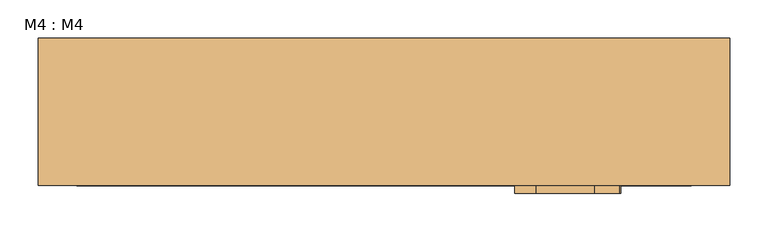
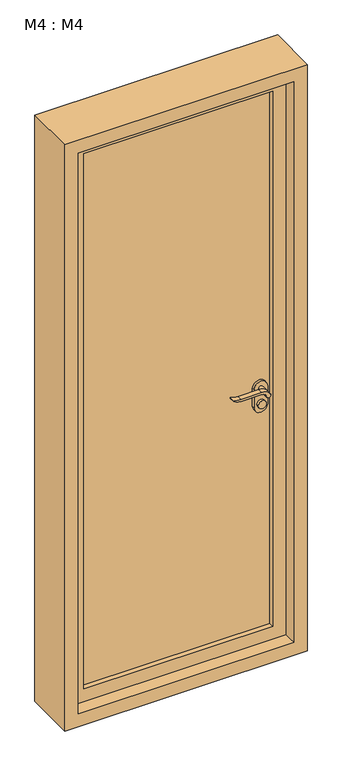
"""IFC4 building model written with IfcOpenShell, lengths in millimetres: door geometry, M4 : M4."""

from ifc_helpers import new_model, si_unit, point, frame, frame_2d, origin, place, context, project, spatial, polyline, circle_curve, trimmed, segment, composite_curve, outline, extrude, source, transform, mapped, element, save


def m4_m4_3ad702a5(model_context):
    return source(origin(), model_context, "Body", "SweptSolid", [
        extrude(outline(composite_curve([segment(trimmed(circle_curve(frame_2d((1000.0, 300.0)), 15.0), [point((1000.0, 285.0))], [point((1000.0, 315.0))], False, "CARTESIAN"), True, "CONTINUOUS"), segment(trimmed(circle_curve(frame_2d((1000.0, 300.0)), 15.0), [point((1000.0, 315.0))], [point((1000.0, 285.0))], False, "CARTESIAN"), True, "CONTINUOUS")], self_intersect=False)), frame((0.0, -45.0, 0.0), z_axis=(0.0, 1.0, 0.0), x_axis=(0.0, 0.0, 1.0)), (0.0, 0.0, 1.0), 10.0),
        extrude(outline(composite_curve([segment(trimmed(circle_curve(frame_2d((1000.0, 300.0)), 15.0), [point((1000.0, 285.0))], [point((1000.0, 315.0))], False, "CARTESIAN"), True, "CONTINUOUS"), segment(trimmed(circle_curve(frame_2d((1000.0, 300.0)), 15.0), [point((1000.0, 315.0))], [point((1000.0, 285.0))], False, "CARTESIAN"), True, "CONTINUOUS")], self_intersect=False)), frame((0.0, 35.0, 0.0), z_axis=(0.0, 1.0, 0.0), x_axis=(0.0, 0.0, 1.0)), (0.0, 0.0, 1.0), 10.0),
        extrude(outline(composite_curve([segment(trimmed(circle_curve(frame_2d((1042.7555521, 276.3324871)), 37.2832219), [point((1064.6523287, 306.5081363))], [point((1080.0, 274.6325667))], False, "CARTESIAN"), True, "CONTINUOUS"), segment(polyline([(1080.0, 274.6325667), (1080.0, 198.3564091)]), True, "CONTINUOUS"), segment(trimmed(circle_curve(frame_2d((1163.2850638, 198.4227909)), 83.2850902), [point((1080.0, 198.3564091))], [point((1085.0, 170.0))], True, "CARTESIAN"), True, "CONTINUOUS"), segment(polyline([(1085.0, 170.0), (1082.2135558, 170.0)]), True, "CONTINUOUS"), segment(trimmed(circle_curve(frame_2d((1132.2709207, 201.9396612)), 59.3791355), [point((1082.2135558, 170.0))], [point((1073.0, 198.3564091))], False, "CARTESIAN"), True, "CONTINUOUS"), segment(polyline([(1073.0, 198.3564091), (1073.0, 274.6138099)]), True, "CONTINUOUS"), segment(trimmed(circle_curve(frame_2d((1054.8738613, 274.6138099)), 18.1261387), [point((1073.0, 274.6138099))], [point((1060.0, 292.0))], True, "CARTESIAN"), True, "CONTINUOUS"), segment(trimmed(circle_curve(frame_2d((1060.0, 300.0)), 8.0), [point((1060.0, 292.0))], [point((1064.6523287, 306.5081363))], False, "CARTESIAN"), True, "CONTINUOUS")], self_intersect=False)), frame((0.0, -85.0, 0.0), z_axis=(0.0, 1.0, 0.0), x_axis=(0.0, 0.0, 1.0)), (0.0, 0.0, 1.0), 20.0),
        extrude(outline(composite_curve([segment(trimmed(circle_curve(frame_2d((1060.0, 300.0)), 8.0), [point((1059.9999903, 292.0))], [point((1064.6523287, 306.5081363))], False, "CARTESIAN"), True, "CONTINUOUS"), segment(trimmed(circle_curve(frame_2d((1042.7555521, 276.3324871)), 37.2832219), [point((1064.6523287, 306.5081363))], [point((1080.0, 274.6325667))], False, "CARTESIAN"), True, "CONTINUOUS"), segment(polyline([(1080.0, 274.6325667), (1080.0, 198.3564091)]), True, "CONTINUOUS"), segment(trimmed(circle_curve(frame_2d((1163.2850638, 198.4227909)), 83.2850902), [point((1080.0, 198.3564091))], [point((1085.0, 170.0))], True, "CARTESIAN"), True, "CONTINUOUS"), segment(polyline([(1085.0, 170.0), (1082.2135558, 170.0)]), True, "CONTINUOUS"), segment(trimmed(circle_curve(frame_2d((1132.2709207, 201.9396612)), 59.3791355), [point((1082.2135558, 170.0))], [point((1073.0, 198.3564091))], False, "CARTESIAN"), True, "CONTINUOUS"), segment(polyline([(1073.0, 198.3564091), (1073.0, 274.6138122)]), True, "CONTINUOUS"), segment(trimmed(circle_curve(frame_2d((1054.8738682, 274.6138122)), 18.1261318), [point((1073.0, 274.6138122))], [point((1059.9999903, 292.0))], True, "CARTESIAN"), True, "CONTINUOUS")], self_intersect=False)), frame((0.0, 65.0, 0.0), z_axis=(0.0, 1.0, 0.0), x_axis=(0.0, 0.0, 1.0)), (0.0, 0.0, 1.0), 20.0),
        extrude(outline(composite_curve([segment(trimmed(circle_curve(frame_2d((1060.0, 300.0)), 8.0), [point((1060.0, 292.0))], [point((1060.0, 308.0))], False, "CARTESIAN"), True, "CONTINUOUS"), segment(trimmed(circle_curve(frame_2d((1060.0, 300.0)), 8.0), [point((1060.0, 308.0))], [point((1060.0, 292.0))], False, "CARTESIAN"), True, "CONTINUOUS")], self_intersect=False)), frame((0.0, -65.0, 0.0), z_axis=(0.0, 1.0, 0.0), x_axis=(0.0, 0.0, 1.0)), (0.0, 0.0, 1.0), 30.0),
        extrude(outline(composite_curve([segment(trimmed(circle_curve(frame_2d((1060.0, 300.0)), 8.0), [point((1060.0, 292.0))], [point((1060.0, 308.0))], False, "CARTESIAN"), True, "CONTINUOUS"), segment(trimmed(circle_curve(frame_2d((1060.0, 300.0)), 8.0), [point((1060.0, 308.0))], [point((1060.0, 292.0))], False, "CARTESIAN"), True, "CONTINUOUS")], self_intersect=False)), frame((0.0, 35.0, 0.0), z_axis=(0.0, 1.0, 0.0), x_axis=(0.0, 0.0, 1.0)), (0.0, 0.0, 1.0), 30.0),
        extrude(outline(composite_curve([segment(polyline([(990.0, 325.0), (1060.0, 325.0)]), True, "CONTINUOUS"), segment(trimmed(circle_curve(frame_2d((1060.0, 300.0)), 25.0), [point((1060.0, 325.0))], [point((1060.0, 275.0))], False, "CARTESIAN"), True, "CONTINUOUS"), segment(polyline([(1060.0, 275.0), (990.0, 275.0)]), True, "CONTINUOUS"), segment(trimmed(circle_curve(frame_2d((990.0, 300.0)), 25.0), [point((990.0, 275.0))], [point((990.0, 325.0))], False, "CARTESIAN"), True, "CONTINUOUS")], self_intersect=False)), frame((0.0, -35.0, 0.0), z_axis=(0.0, 1.0, 0.0), x_axis=(0.0, 0.0, 1.0)), (0.0, 0.0, 1.0), 10.0),
        extrude(outline(composite_curve([segment(polyline([(990.0, 325.0), (1060.0, 325.0)]), True, "CONTINUOUS"), segment(trimmed(circle_curve(frame_2d((1060.0, 300.0)), 25.0), [point((1060.0, 325.0))], [point((1060.0, 275.0))], False, "CARTESIAN"), True, "CONTINUOUS"), segment(polyline([(1060.0, 275.0), (990.0, 275.0)]), True, "CONTINUOUS"), segment(trimmed(circle_curve(frame_2d((990.0, 300.0)), 25.0), [point((990.0, 275.0))], [point((990.0, 325.0))], False, "CARTESIAN"), True, "CONTINUOUS")], self_intersect=False)), frame((0.0, 25.0, 0.0), z_axis=(0.0, 1.0, 0.0), x_axis=(0.0, 0.0, 1.0)), (0.0, 0.0, 1.0), 10.0),
        extrude(outline(polyline([(350.0, -5.2868922), (-350.0, -5.2868922), (-350.0, 4.7131078), (350.0, 4.7131078), (350.0, -5.2868922)])), frame((0.0, 0.0, 100.0), z_axis=(0.0, 0.0, 1.0), x_axis=(1.0, 0.0, 0.0)), (0.0, 0.0, 1.0), 2100.0),
        extrude(outline(polyline([(2300.0, 450.0), (2300.0, -450.0), (0.0, -450.0), (0.0, 450.0), (2300.0, 450.0)]), holes=[polyline([(2250.0, 400.0), (50.0, 400.0), (50.0, -400.0), (2250.0, -400.0), (2250.0, 400.0)])]), frame((0.0, -75.0, 0.0), z_axis=(0.0, 1.0, 0.0), x_axis=(0.0, 0.0, 1.0)), (0.0, 0.0, 1.0), 192.0),
        extrude(outline(polyline([(2250.0, 400.0), (2250.0, -400.0), (50.0, -400.0), (50.0, 400.0), (2250.0, 400.0)]), holes=[polyline([(2200.0, 350.0), (100.0, 350.0), (100.0, -350.0), (2200.0, -350.0), (2200.0, 350.0)])]), frame((0.0, -25.0, 0.0), z_axis=(0.0, 1.0, 0.0), x_axis=(0.0, 0.0, 1.0)), (0.0, 0.0, 1.0), 50.0),
    ])


if __name__ == "__main__":
    model = new_model("IFC4")
    model_context = context("Model", 3, world=origin())
    ifc_project = project(units=[si_unit("LENGTHUNIT", "METRE", prefix="MILLI")], contexts=[model_context])
    site = spatial("IfcSite", under=ifc_project)
    building = spatial("IfcBuilding", under=site)
    placement = place(None, origin())
    m4_m4_shape = m4_m4_3ad702a5(model_context)
    element("IfcDoor", 1, ObjectType="M4 : M4", at=placement, inside=building, context=model_context, shape_type="MappedRepresentation", body=[
        mapped(m4_m4_shape, transform((0.0, 0.0, 0.0), x_axis=(1.0, 0.0, 0.0), y_axis=(0.0, 1.0, 0.0), z_axis=(0.0, 0.0, 1.0))),
    ])
    save(model, "model.ifc")
